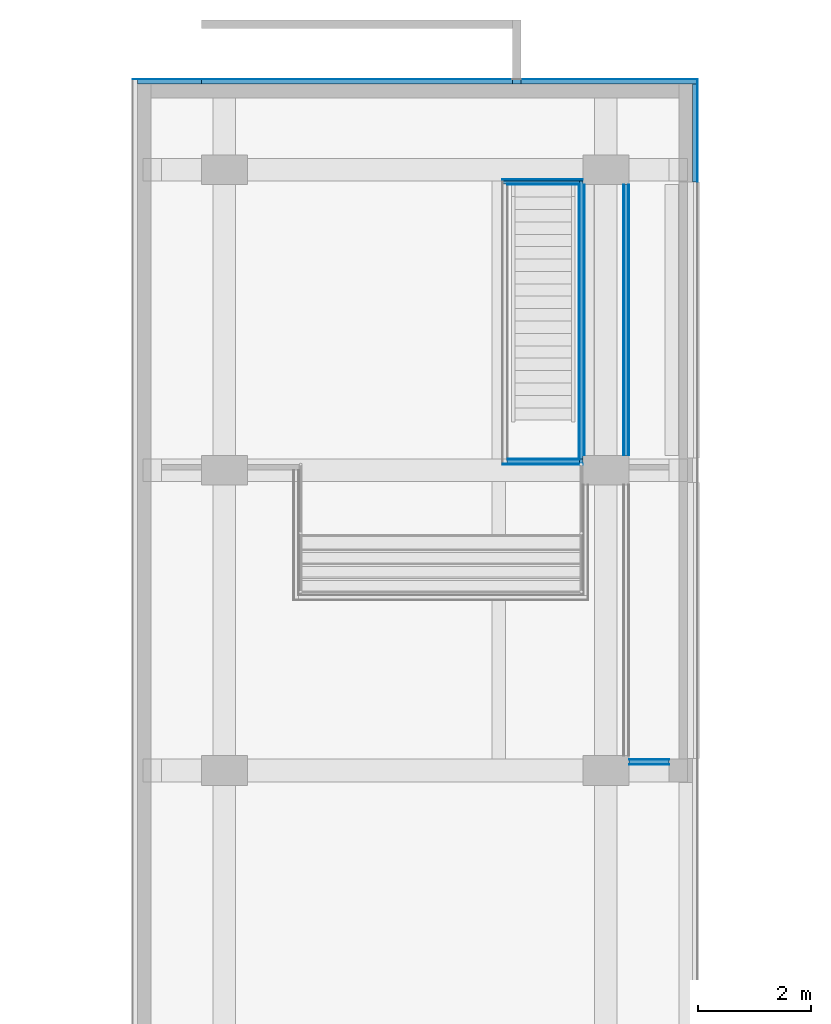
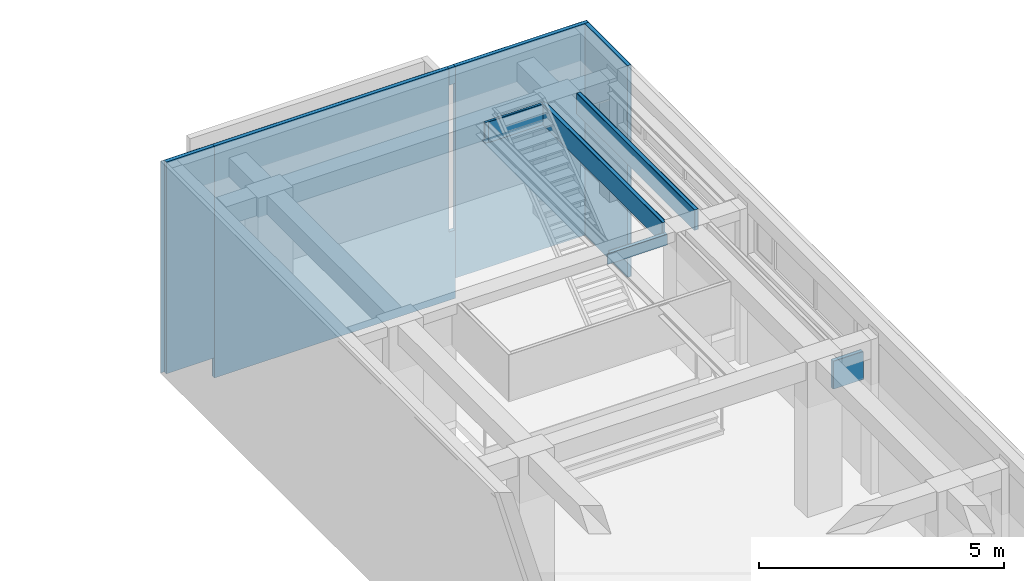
# One storey, part 114 of 135: 24 building element parts, 10 elements without a shape of their own.
"""IFC2X3 building model written with IfcOpenShell, lengths in millimetres."""

from ifc_helpers import new_model, entity, si_unit, converted_unit, derived_unit, money_unit, direction, frame, origin_with_axes, place, context, subcontext, project, spatial, faceted_brep, material, type_object, element, aggregate, save


model = new_model("IFC2X3")

# Units and contexts
model_context = context("Model", 3, precision=0.01, world=origin_with_axes(), true_north=direction((0.0, 1.0)))
body_context = subcontext(model_context, "Body", "Model", "MODEL_VIEW")
ifc_project = project(units=[si_unit("LENGTHUNIT", "METRE", prefix="MILLI"), si_unit("AREAUNIT", "SQUARE_METRE"), si_unit("VOLUMEUNIT", "CUBIC_METRE"), converted_unit("PLANEANGLEUNIT", "DEGREE", entity("IfcPlaneAngleMeasure", 0.0174532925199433), si_unit("PLANEANGLEUNIT", "RADIAN"), dimensions=[0, 0, 0, 0, 0, 0, 0]), money_unit("EUR"), converted_unit("TIMEUNIT", "Year", entity("IfcTimeMeasure", 31557600.0), si_unit("TIMEUNIT", "SECOND"), dimensions=[0, 0, 1, 0, 0, 0, 0]), si_unit("MASSUNIT", "GRAM", prefix="KILO"), si_unit("THERMODYNAMICTEMPERATUREUNIT", "DEGREE_CELSIUS"), si_unit("LUMINOUSINTENSITYUNIT", "LUMEN"), si_unit("ENERGYUNIT", "JOULE", prefix="MEGA"), derived_unit("THERMALCONDUCTANCEUNIT", [(si_unit("POWERUNIT", "WATT"), 1), (si_unit("LENGTHUNIT", "METRE"), -1), (si_unit("THERMODYNAMICTEMPERATUREUNIT", "KELVIN"), -1)]), derived_unit("SPECIFICHEATCAPACITYUNIT", [(si_unit("ENERGYUNIT", "JOULE"), 1), (si_unit("MASSUNIT", "GRAM", prefix="KILO"), -1), (si_unit("THERMODYNAMICTEMPERATUREUNIT", "KELVIN"), -1)]), derived_unit("MASSDENSITYUNIT", [(si_unit("MASSUNIT", "GRAM", prefix="KILO"), 1), (si_unit("VOLUMEUNIT", "CUBIC_METRE"), -1)])], contexts=[model_context])

# Site, building, storey
site_placement = place(None, origin_with_axes())
site = spatial("IfcSite", under=ifc_project, at=site_placement, Name="Site", CompositionType="ELEMENT")
building_placement = place(site_placement, origin_with_axes())
building = spatial("IfcBuilding", under=site, at=building_placement, Name="Naam gebouw", CompositionType="ELEMENT")
storey_placement = place(building_placement, origin_with_axes())
storey = spatial("IfcBuildingStorey", under=building, at=storey_placement, Name="Begane grond N", CompositionType="ELEMENT", Elevation=0.0)

# Wall, building element parts
wall_type_1 = type_object("IfcWallType", Name="Gevelstuc 90", PredefinedType="NOTDEFINED")
wall_1_placement = place(storey_placement, frame((21426.0, 56215.91242510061, -1700.0), z_axis=(0.0, 0.0, 1.0), x_axis=(1.0, 0.0, 0.0)))
wall_1 = element("IfcWall", 1, at=wall_1_placement, inside=storey, type_object=wall_type_1, Name="_Wand-x")
ifc_material_1 = material(Name="stucwerk")
building_element_part_1_placement = place(wall_1_placement, origin_with_axes())
building_element_part_1 = element("IfcBuildingElementPart", 2, at=building_element_part_1_placement, material=ifc_material_1, Name="stucwerk", context=body_context, shape_type="Brep", body=[
    faceted_brep([(5519.453814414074, -5.999983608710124, 1700.0), (5519.453814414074, -6.000000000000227, 0.0), (5519.453814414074, 0.0, 0.0), (5519.453814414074, 2.53319996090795e-05, 1700.0), (5519.453814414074, -8.940688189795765e-07, 5770.000000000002), (5519.453814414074, -6.000000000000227, 5770.000000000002), (0.0, -6.000000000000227, 5770.000000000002), (0.0, -6.000000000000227, 0.0), (0.0, 0.0, 0.0), (0.0, 0.0, 5770.000000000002)], [[[0, 1, 2, 3, 4, 5]], [[1, 0, 5, 6, 7]], [[2, 1, 7, 8]], [[3, 2, 8, 9, 4]], [[6, 5, 4, 9]], [[8, 7, 6, 9]]]),
])
ifc_material_2 = material(Name="Isolatie - Kunststof hard")
building_element_part_2_placement = place(wall_1_placement, origin_with_axes())
building_element_part_2 = element("IfcBuildingElementPart", 3, at=building_element_part_2_placement, material=ifc_material_2, Name="Isolatie - Kunststof hard", context=body_context, shape_type="Brep", body=[
    faceted_brep([(5519.453814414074, -5.999983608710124, 1700.0), (5669.453814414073, -5.999983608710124, 1700.0), (5669.453814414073, -6.000000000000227, 0.0), (0.0, -6.000000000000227, 0.0), (0.0, -6.000000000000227, 5770.000000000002), (5519.453814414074, -6.000000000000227, 5770.000000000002), (5669.453814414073, -90.00000000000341, 1700.0), (5519.453814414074, -90.00000000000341, 1700.0), (5669.453814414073, -89.9999999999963, 0.0), (0.0, -90.00000000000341, 0.0), (0.0, -89.9999999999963, 5770.000000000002), (5519.453814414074, -90.00000000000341, 5770.000000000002)], [[[0, 1, 2, 3, 4, 5]], [[6, 1, 0, 7]], [[1, 6, 8, 2]], [[2, 8, 9, 3]], [[9, 10, 4, 3]], [[11, 5, 4, 10]], [[7, 0, 5, 11]], [[7, 11, 10, 9, 8, 6]]]),
])
aggregate(wall_1, [building_element_part_1, building_element_part_2])

# Wall, building element part
wall_2_placement = place(storey_placement, frame((27095.45381441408, 56215.91242510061, -1200.0), z_axis=(0.0, 0.0, 1.0), x_axis=(1.0, 0.0, 0.0)))
wall_2 = element("IfcWall", 4, at=wall_2_placement, inside=storey, type_object=wall_type_1, Name="_Wand-x")
building_element_part_3_placement = place(wall_2_placement, origin_with_axes())
building_element_part_3 = element("IfcBuildingElementPart", 5, at=building_element_part_3_placement, material=ifc_material_1, Name="stucwerk", context=body_context, shape_type="Brep", body=[
    faceted_brep([(3140.546185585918, 0.0, 5270.000000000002), (0.0, 0.0, 5270.000000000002), (0.0, -6.000000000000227, 5270.000000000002), (3140.546185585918, -6.000000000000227, 5270.000000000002), (3140.546185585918, 0.0, 0.0), (0.0, 0.0, 0.0), (0.0, -6.000000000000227, 0.0), (3140.546185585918, -6.000000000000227, 0.0)], [[[0, 1, 2, 3]], [[4, 5, 1, 0]], [[2, 1, 5, 6]], [[3, 2, 6, 7]], [[3, 7, 4, 0]], [[7, 6, 5, 4]]]),
])

# Wall, building element parts
wall_3_placement = place(storey_placement, frame((20205.99999999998, 56215.91242510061, -1200.0), z_axis=(0.0, 0.0, 1.0), x_axis=(1.0, 0.0, 0.0)))
wall_3 = element("IfcWall", 6, at=wall_3_placement, inside=storey, type_object=wall_type_1, Name="_Wand-x")
building_element_part_4_placement = place(wall_3_placement, origin_with_axes())
building_element_part_4 = element("IfcBuildingElementPart", 7, at=building_element_part_4_placement, material=ifc_material_1, Name="stucwerk", context=body_context, shape_type="Brep", body=[
    faceted_brep([(1220.000000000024, -6.000000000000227, 5270.000000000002), (1220.000000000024, 0.0, 5270.000000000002), (6.000000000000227, 0.0, 5270.000000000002), (6.000000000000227, -6.000000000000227, 5270.000000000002), (1220.000000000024, -6.000000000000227, 0.0), (1220.000000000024, 0.0, 0.0), (6.000000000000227, 0.0, 0.0), (6.000000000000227, -6.000000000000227, 0.0)], [[[0, 1, 2, 3]], [[0, 4, 5, 1]], [[1, 5, 6, 2]], [[3, 2, 6, 7]], [[4, 0, 3, 7]], [[5, 4, 7, 6]]]),
])
building_element_part_5_placement = place(wall_3_placement, origin_with_axes())
building_element_part_5 = element("IfcBuildingElementPart", 8, at=building_element_part_5_placement, material=ifc_material_2, Name="Isolatie - Kunststof hard", context=body_context, shape_type="Brep", body=[
    faceted_brep([(1220.000000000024, -89.9999999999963, 5270.000000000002), (1220.000000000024, -6.000000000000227, 5270.000000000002), (89.99999999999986, -6.000000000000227, 5270.000000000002), (89.99999999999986, -89.9999999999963, 5270.000000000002), (1220.000000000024, -90.00000000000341, 0.0), (1220.000000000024, -6.000000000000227, 0.0), (89.99999999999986, -6.000000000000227, 0.0), (89.99999999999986, -90.00000000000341, 0.0)], [[[0, 1, 2, 3]], [[0, 4, 5, 1]], [[1, 5, 6, 2]], [[3, 2, 6, 7]], [[4, 0, 3, 7]], [[5, 4, 7, 6]]]),
])
aggregate(wall_3, [building_element_part_4, building_element_part_5])

# Building element part
building_element_part_6_placement = place(wall_2_placement, origin_with_axes())
building_element_part_6 = element("IfcBuildingElementPart", 9, at=building_element_part_6_placement, material=ifc_material_2, Name="Isolatie - Kunststof hard", context=body_context, shape_type="Brep", body=[
    faceted_brep([(3134.546185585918, -6.000000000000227, 5270.000000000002), (0.0, -6.000000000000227, 5270.000000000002), (0.0, -89.9999999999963, 5270.000000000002), (3134.546185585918, -89.9999999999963, 5270.000000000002), (3134.546185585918, -6.000000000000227, 0.0), (0.0, -6.000000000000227, 0.0), (0.0, -90.00000000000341, 0.0), (3134.546185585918, -89.9999999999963, 0.0)], [[[0, 1, 2, 3]], [[4, 5, 1, 0]], [[2, 1, 5, 6]], [[3, 2, 6, 7]], [[3, 7, 4, 0]], [[7, 6, 5, 4]]]),
])

aggregate(wall_2, [building_element_part_3, building_element_part_6])

# Wall, building element parts
wall_type_2 = type_object("IfcWallType", Name="Metalstud iso 100 100", PredefinedType="NOTDEFINED")
wall_4_placement = place(storey_placement, frame((28125.9999950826, 49475.9124251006, 3339.997968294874), z_axis=(0.0, 0.0, 1.0), x_axis=(0.0, 1.0, 0.0)))
wall_4 = element("IfcWall", 10, at=wall_4_placement, inside=storey, type_object=wall_type_2, Name="_Wand-x")
ifc_material_3 = material(Name="Isolatie - Steenwol LSW")
building_element_part_7_placement = place(wall_4_placement, origin_with_axes())
building_element_part_7 = element("IfcBuildingElementPart", 11, at=building_element_part_7_placement, material=ifc_material_3, Name="Isolatie - Steenwol LSW", context=body_context, shape_type="Brep", body=[
    faceted_brep([(0.0, -70.000004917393, 510.0020317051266), (62.5, -70.000004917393, 510.0020317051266), (62.5, -87.49999999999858, 510.0020317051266), (4867.499999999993, -87.49999999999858, 510.0020317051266), (4867.499999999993, -70.000004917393, 510.0020317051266), (4929.999999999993, -70.000004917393, 510.0020317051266), (4929.999999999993, -12.49999999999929, 510.0020317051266), (0.0, -12.49999999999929, 510.0020317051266), (0.0, -70.000004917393, 260.0020316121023), (-87.49999999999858, -70.000004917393, 260.0020316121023), (-87.49999999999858, -70.000004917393, 0.0), (62.5, -70.000004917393, 0.0), (62.5, -87.49999999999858, 0.0), (4867.499999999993, -87.49999999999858, 0.0), (4867.499999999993, -70.000004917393, 0.0), (4954.999999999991, -70.000004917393, 0.0), (4954.999999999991, -70.000004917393, 40.00000000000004), (4929.999999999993, -70.000004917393, 40.00000000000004), (4929.999999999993, -12.49999999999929, 40.00000000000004), (4954.999999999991, -12.49999999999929, 40.00000000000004), (4954.999999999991, -12.49999999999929, 0.0), (-87.49999999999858, -12.49999999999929, 0.0), (-87.49999999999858, -12.49999999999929, 260.0020316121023), (0.0, -12.49999999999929, 260.0020316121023)], [[[0, 1, 2, 3, 4, 5, 6, 7]], [[1, 0, 8, 9, 10, 11]], [[12, 2, 1, 11]], [[2, 12, 13, 3]], [[4, 3, 13, 14]], [[15, 16, 17, 5, 4, 14]], [[5, 17, 18, 6]], [[6, 18, 19, 20, 21, 22, 23, 7]], [[8, 0, 7, 23]], [[9, 8, 23, 22]], [[10, 9, 22, 21]], [[11, 10, 21, 20, 15, 14, 13, 12]], [[16, 15, 20, 19]], [[17, 16, 19, 18]]]),
])
ifc_material_4 = material(Name="Gipsplaat")
building_element_part_8_placement = place(wall_4_placement, origin_with_axes())
building_element_part_8 = element("IfcBuildingElementPart", 12, at=building_element_part_8_placement, material=ifc_material_4, Name="Gipsplaat", context=body_context, shape_type="Brep", body=[
    faceted_brep([(62.5, -87.49999999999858, 510.0020317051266), (62.5, -100.0000000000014, 510.0020317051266), (4867.499999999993, -100.0000000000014, 510.0020317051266), (4867.499999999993, -87.49999999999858, 510.0020317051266), (62.5, -100.0000000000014, 0.0), (62.5, -87.49999999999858, 0.0), (4867.499999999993, -100.0000000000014, 0.0), (4867.499999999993, -87.49999999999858, 0.0)], [[[0, 1, 2, 3]], [[4, 1, 0, 5]], [[1, 4, 6, 2]], [[3, 2, 6, 7]], [[5, 0, 3, 7]], [[4, 5, 7, 6]]]),
])
building_element_part_9_placement = place(wall_4_placement, origin_with_axes())
building_element_part_9 = element("IfcBuildingElementPart", 13, at=building_element_part_9_placement, material=ifc_material_4, Name="Gipsplaat", context=body_context, shape_type="Brep", body=[
    faceted_brep([(0.0, 0.0, 510.0020317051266), (0.0, -12.49999999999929, 510.0020317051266), (4879.999999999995, -12.49999999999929, 510.0020317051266), (4879.999999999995, 0.0, 510.0020317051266), (0.0, -12.49999999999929, 260.0020316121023), (0.0, 0.0, 260.0020316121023), (-12.50000000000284, -12.49999999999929, 260.0020316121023), (-12.50000000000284, -12.49999999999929, 0.0), (4879.999999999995, -12.49999999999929, 0.0), (4879.999999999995, 0.0, 0.0), (-12.50000000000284, 0.0, 0.0), (-12.50000000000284, 0.0, 260.0020316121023)], [[[0, 1, 2, 3]], [[4, 1, 0, 5]], [[4, 6, 7, 8, 2, 1]], [[9, 3, 2, 8]], [[5, 0, 3, 9, 10, 11]], [[6, 4, 5, 11]], [[6, 11, 10, 7]], [[10, 9, 8, 7]]]),
])
aggregate(wall_4, [building_element_part_7, building_element_part_8, building_element_part_9])

# Wall, building element part
wall_5_placement = place(storey_placement, frame((26945.45381441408, 56215.91242510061, 3650.0), z_axis=(0.0, 0.0, 1.0), x_axis=(1.0, 0.0, 0.0)))
wall_5 = element("IfcWall", 14, at=wall_5_placement, inside=storey, type_object=wall_type_1, Name="_Wand-x")
building_element_part_10_placement = place(wall_5_placement, origin_with_axes())
building_element_part_10 = element("IfcBuildingElementPart", 15, at=building_element_part_10_placement, material=ifc_material_2, Name="Isolatie - Kunststof hard", context=body_context, shape_type="Brep", body=[
    faceted_brep([(149.9999999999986, -90.00000000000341, 420.0000000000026), (149.9999999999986, -6.000000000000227, 420.0000000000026), (0.0, -6.000000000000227, 420.0000000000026), (0.0, -90.00000000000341, 420.0000000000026), (149.9999999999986, -90.00000000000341, 0.0), (149.9999999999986, -6.000000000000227, 0.0), (0.0, -6.000000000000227, 0.0), (0.0, -90.00000000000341, 0.0)], [[[0, 1, 2, 3]], [[0, 4, 5, 1]], [[1, 5, 6, 2]], [[3, 2, 6, 7]], [[4, 0, 3, 7]], [[5, 4, 7, 6]]]),
])
aggregate(wall_5, [building_element_part_10])

# Wall, building element parts
wall_6_placement = place(storey_placement, frame((30235.99999999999, 56215.91242510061, -1200.0), z_axis=(0.0, 0.0, 1.0), x_axis=(0.0, -1.0, 0.0)))
wall_6 = element("IfcWall", 16, at=wall_6_placement, inside=storey, type_object=wall_type_1, Name="_Wand-x")
building_element_part_11_placement = place(wall_6_placement, origin_with_axes())
building_element_part_11 = element("IfcBuildingElementPart", 17, at=building_element_part_11_placement, material=ifc_material_1, Name="stucwerk", context=body_context, shape_type="Brep", body=[
    faceted_brep([(6.000000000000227, -6.000000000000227, 5270.000000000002), (1825.000000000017, -6.000000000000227, 5270.000000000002), (1825.000000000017, 0.0, 5270.000000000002), (6.000000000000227, 0.0, 5270.000000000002), (6.000000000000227, -6.000000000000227, 0.0), (1825.000000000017, -6.000000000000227, 0.0), (1825.000000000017, 0.0, 0.0), (6.000000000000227, 0.0, 0.0)], [[[0, 1, 2, 3]], [[4, 5, 1, 0]], [[2, 1, 5, 6]], [[3, 2, 6, 7]], [[4, 0, 3, 7]], [[7, 6, 5, 4]]]),
])
building_element_part_12_placement = place(wall_6_placement, origin_with_axes())
building_element_part_12 = element("IfcBuildingElementPart", 18, at=building_element_part_12_placement, material=ifc_material_2, Name="Isolatie - Kunststof hard", context=body_context, shape_type="Brep", body=[
    faceted_brep([(90.00000000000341, -89.99999999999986, 5270.000000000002), (1825.000000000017, -89.99999999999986, 5270.000000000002), (1825.000000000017, -6.000000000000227, 5270.000000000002), (90.00000000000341, -6.000000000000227, 5270.000000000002), (90.00000000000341, -89.99999999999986, 0.0), (1825.000000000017, -89.99999999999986, 0.0), (1825.000000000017, -6.000000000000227, 0.0), (90.00000000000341, -6.000000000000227, 0.0)], [[[0, 1, 2, 3]], [[4, 5, 1, 0]], [[2, 1, 5, 6]], [[3, 2, 6, 7]], [[4, 0, 3, 7]], [[7, 6, 5, 4]]]),
])
aggregate(wall_6, [building_element_part_11, building_element_part_12])

wall_7_placement = place(storey_placement, frame((26865.99999999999, 49475.9124251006, 3339.997968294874), z_axis=(0.0, 0.0, 1.0), x_axis=(1.0, 0.0, 0.0)))
wall_7 = element("IfcWall", 19, at=wall_7_placement, inside=storey, type_object=wall_type_2, Name="_Wand-x")
building_element_part_13_placement = place(wall_7_placement, origin_with_axes())
building_element_part_13 = element("IfcBuildingElementPart", 20, at=building_element_part_13_placement, material=ifc_material_4, Name="Gipsplaat", context=body_context, shape_type="Brep", body=[
    faceted_brep([(0.0, 0.0, 260.0020316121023), (1259.999995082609, 0.0, 260.0020316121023), (1259.999995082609, 0.0, 0.0), (0.0, 0.0, 0.0), (1259.999995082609, -12.50000000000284, 260.0020316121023), (0.0, -12.50000000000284, 260.0020316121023), (1259.999995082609, -12.50000000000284, 0.0), (0.0, -12.50000000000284, 0.0)], [[[0, 1, 2, 3]], [[4, 1, 0, 5]], [[1, 4, 6, 2]], [[3, 2, 6, 7]], [[5, 0, 3, 7]], [[4, 5, 7, 6]]]),
])
building_element_part_14_placement = place(wall_7_placement, origin_with_axes())
building_element_part_14 = element("IfcBuildingElementPart", 21, at=building_element_part_14_placement, material=ifc_material_3, Name="Isolatie - Steenwol LSW", context=body_context, shape_type="Brep", body=[
    faceted_brep([(-12.49999999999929, -12.50000000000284, 260.0020316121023), (1272.499995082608, -12.50000000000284, 260.0020316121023), (1272.499995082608, -12.50000000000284, 0.0), (-12.49999999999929, -12.50000000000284, 0.0), (1272.499995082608, -87.49999999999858, 260.0020316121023), (-12.49999999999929, -87.49999999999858, 260.0020316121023), (1272.499995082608, -87.49999999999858, 0.0), (-12.49999999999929, -87.49999999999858, 0.0)], [[[0, 1, 2, 3]], [[4, 1, 0, 5]], [[1, 4, 6, 2]], [[3, 2, 6, 7]], [[5, 0, 3, 7]], [[4, 5, 7, 6]]]),
])
building_element_part_15_placement = place(wall_7_placement, origin_with_axes())
building_element_part_15 = element("IfcBuildingElementPart", 22, at=building_element_part_15_placement, material=ifc_material_4, Name="Gipsplaat", context=body_context, shape_type="Brep", body=[
    faceted_brep([(1330.000000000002, -100.0000000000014, 260.0020316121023), (1330.000000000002, -87.49999999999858, 260.0020316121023), (-87.49999999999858, -87.49999999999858, 260.0020316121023), (-87.49999999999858, -100.0000000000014, 260.0020316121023), (1330.000000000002, -87.49999999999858, 0.0), (1330.000000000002, -100.0000000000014, 0.0), (-87.49999999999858, -87.49999999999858, 0.0), (-87.49999999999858, -100.0000000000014, 0.0)], [[[0, 1, 2, 3]], [[4, 1, 0, 5]], [[1, 4, 6, 2]], [[7, 3, 2, 6]], [[5, 0, 3, 7]], [[4, 5, 7, 6]]]),
])
aggregate(wall_7, [building_element_part_13, building_element_part_14, building_element_part_15])

wall_8_placement = place(storey_placement, frame((29015.9999729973, 49475.9124251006, 3339.997968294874), z_axis=(0.0, 0.0, 1.0), x_axis=(0.0, 1.0, 0.0)))
wall_8 = element("IfcWall", 23, at=wall_8_placement, inside=storey, type_object=wall_type_2, Name="_Wand-x")
building_element_part_16_placement = place(wall_8_placement, origin_with_axes())
building_element_part_16 = element("IfcBuildingElementPart", 24, at=building_element_part_16_placement, material=ifc_material_4, Name="Gipsplaat", context=body_context, shape_type="Brep", body=[
    faceted_brep([(62.5, 100.0000000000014, 510.0020317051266), (62.5, 87.49999999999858, 510.0020317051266), (4867.499999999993, 87.49999999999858, 510.0020317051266), (4867.499999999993, 100.0000000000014, 510.0020317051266), (62.5, 87.49999999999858, 0.0), (62.5, 100.0000000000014, 0.0), (4867.499999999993, 87.49999999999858, 0.0), (4867.499999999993, 100.0000000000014, 0.0)], [[[0, 1, 2, 3]], [[4, 1, 0, 5]], [[1, 4, 6, 2]], [[7, 3, 2, 6]], [[5, 0, 3, 7]], [[4, 5, 7, 6]]]),
])
building_element_part_17_placement = place(wall_8_placement, origin_with_axes())
building_element_part_17 = element("IfcBuildingElementPart", 25, at=building_element_part_17_placement, material=ifc_material_3, Name="Isolatie - Steenwol LSW", context=body_context, shape_type="Brep", body=[
    faceted_brep([(62.5, 87.49999999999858, 510.0020317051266), (62.5, 12.49999999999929, 510.0020317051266), (4867.499999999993, 12.49999999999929, 510.0020317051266), (4867.499999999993, 87.49999999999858, 510.0020317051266), (62.5, 12.49999999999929, 0.0), (62.5, 87.49999999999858, 0.0), (4867.499999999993, 12.49999999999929, 0.0), (4867.499999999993, 87.49999999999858, 0.0)], [[[0, 1, 2, 3]], [[4, 1, 0, 5]], [[1, 4, 6, 2]], [[7, 3, 2, 6]], [[5, 0, 3, 7]], [[4, 5, 7, 6]]]),
])
building_element_part_18_placement = place(wall_8_placement, origin_with_axes())
building_element_part_18 = element("IfcBuildingElementPart", 26, at=building_element_part_18_placement, material=ifc_material_4, Name="Gipsplaat", context=body_context, shape_type="Brep", body=[
    faceted_brep([(62.5, 12.49999999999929, 510.0020317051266), (62.5, -2.700269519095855e-05, 510.0020317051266), (4867.499999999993, 0.0, 510.0020317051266), (4867.499999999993, 12.49999999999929, 510.0020317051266), (62.5, -2.700269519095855e-05, 0.0), (62.5, 12.49999999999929, 0.0), (4867.499999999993, 0.0, 0.0), (4867.499999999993, 12.49999999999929, 0.0)], [[[0, 1, 2, 3]], [[4, 1, 0, 5]], [[1, 4, 6, 2]], [[7, 3, 2, 6]], [[5, 0, 3, 7]], [[4, 5, 7, 6]]]),
])
aggregate(wall_8, [building_element_part_16, building_element_part_17, building_element_part_18])

wall_9_placement = place(storey_placement, frame((28125.9999950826, 54343.41242510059, 3339.997968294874), z_axis=(0.0, 0.0, 1.0), x_axis=(-1.0, 0.0, 0.0)))
wall_9 = element("IfcWall", 27, at=wall_9_placement, inside=storey, type_object=wall_type_2, Name="_Wand-x")
building_element_part_19_placement = place(wall_9_placement, origin_with_axes())
building_element_part_19 = element("IfcBuildingElementPart", 28, at=building_element_part_19_placement, material=ifc_material_3, Name="Isolatie - Steenwol LSW", context=body_context, shape_type="Brep", body=[
    faceted_brep([(1347.499995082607, -87.49999999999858, 40.00000000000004), (-12.49999999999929, -87.49999999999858, 40.00000000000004), (-12.49999999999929, -87.49999999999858, 0.0), (1347.499995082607, -87.49999999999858, 0.0), (-12.49999999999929, -62.5, 40.00000000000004), (1347.499995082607, -62.5, 40.00000000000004), (-12.49999999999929, -62.5, 510.0020317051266), (-12.49999999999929, -12.50000000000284, 510.0020317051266), (-12.49999999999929, -12.50000000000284, 0.0), (1347.499995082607, -12.50000000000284, 0.0), (1347.499995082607, -12.50000000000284, 510.0020317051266), (1347.499995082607, -62.5, 510.0020317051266)], [[[0, 1, 2, 3]], [[4, 1, 0, 5]], [[4, 6, 7, 8, 2, 1]], [[8, 9, 3, 2]], [[5, 0, 3, 9, 10, 11]], [[11, 6, 4, 5]], [[6, 11, 10, 7]], [[8, 7, 10, 9]]]),
])
building_element_part_20_placement = place(wall_9_placement, origin_with_axes())
building_element_part_20 = element("IfcBuildingElementPart", 29, at=building_element_part_20_placement, material=ifc_material_4, Name="Gipsplaat", context=body_context, shape_type="Brep", body=[
    faceted_brep([(-70.000004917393, -87.49999999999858, 40.00000000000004), (-70.000004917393, -100.0000000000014, 40.00000000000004), (1359.99999508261, -100.0000000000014, 40.00000000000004), (1359.99999508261, -87.49999999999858, 40.00000000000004), (-70.000004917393, -100.0000000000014, 0.0), (-70.000004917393, -87.49999999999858, 0.0), (1359.99999508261, -100.0000000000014, 0.0), (1359.99999508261, -87.49999999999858, 0.0)], [[[0, 1, 2, 3]], [[4, 1, 0, 5]], [[1, 4, 6, 2]], [[7, 3, 2, 6]], [[5, 0, 3, 7]], [[4, 5, 7, 6]]]),
])
building_element_part_21_placement = place(wall_9_placement, origin_with_axes())
building_element_part_21 = element("IfcBuildingElementPart", 30, at=building_element_part_21_placement, material=ifc_material_4, Name="Gipsplaat", context=body_context, shape_type="Brep", body=[
    faceted_brep([(1272.499995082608, -12.50000000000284, 510.0020317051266), (0.0, -12.50000000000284, 510.0020317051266), (0.0, -12.50000000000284, 0.0), (1272.499995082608, -12.50000000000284, 0.0), (0.0, 0.0, 510.0020317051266), (1272.499995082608, 0.0, 510.0020317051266), (1259.999995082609, 0.0, 510.0020317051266), (0.0, 0.0, 0.0), (1272.499995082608, 0.0, 0.0)], [[[0, 1, 2, 3]], [[4, 1, 0, 5, 6]], [[1, 4, 7, 2]], [[8, 3, 2, 7]], [[5, 0, 3, 8]], [[6, 5, 8, 7, 4]]]),
])
aggregate(wall_9, [building_element_part_19, building_element_part_20, building_element_part_21])

wall_10_placement = place(storey_placement, frame((29015.99992027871, 44145.91242510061, 2689.99832424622), z_axis=(0.0, 0.0, 1.0), x_axis=(1.0, 0.0, 0.0)))
wall_10 = element("IfcWall", 31, at=wall_10_placement, inside=storey, type_object=wall_type_2, Name="_Wand-x")
building_element_part_22_placement = place(wall_10_placement, origin_with_axes())
building_element_part_22 = element("IfcBuildingElementPart", 32, at=building_element_part_22_placement, material=ifc_material_4, Name="Gipsplaat", context=body_context, shape_type="Brep", body=[
    faceted_brep([(0.0, 0.0, 0.0), (0.0, 0.0, 690.0003212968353), (710.0000797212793, 0.0, 690.0003212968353), (710.0000797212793, 0.0, 0.0), (0.0, -12.50000000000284, 0.0), (0.0, -12.50000000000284, 690.0003212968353), (710.0000797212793, -12.50000000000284, 690.0003212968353), (710.0000797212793, -12.50000000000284, 0.0)], [[[0, 1, 2, 3]], [[4, 5, 1, 0]], [[5, 6, 2, 1]], [[3, 2, 6, 7]], [[7, 4, 0, 3]], [[7, 6, 5, 4]]]),
])
building_element_part_23_placement = place(wall_10_placement, origin_with_axes())
building_element_part_23 = element("IfcBuildingElementPart", 33, at=building_element_part_23_placement, material=ifc_material_3, Name="Isolatie - Steenwol LSW", context=body_context, shape_type="Brep", body=[
    faceted_brep([(0.0, -12.50000000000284, 0.0), (0.0, -12.50000000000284, 690.0003212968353), (710.0000797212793, -12.50000000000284, 690.0003212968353), (710.0000797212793, -12.50000000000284, 0.0), (0.0, -87.49999999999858, 0.0), (0.0, -87.49999999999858, 690.0003212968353), (710.0000797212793, -87.49999999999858, 690.0003212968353), (710.0000797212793, -87.49999999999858, 0.0)], [[[0, 1, 2, 3]], [[4, 5, 1, 0]], [[5, 6, 2, 1]], [[3, 2, 6, 7]], [[7, 4, 0, 3]], [[7, 6, 5, 4]]]),
])
building_element_part_24_placement = place(wall_10_placement, origin_with_axes())
building_element_part_24 = element("IfcBuildingElementPart", 34, at=building_element_part_24_placement, material=ifc_material_4, Name="Gipsplaat", context=body_context, shape_type="Brep", body=[
    faceted_brep([(0.0, -87.49999999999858, 0.0), (0.0, -87.49999999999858, 690.0003212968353), (710.0000797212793, -87.49999999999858, 690.0003212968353), (710.0000797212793, -87.49999999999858, 0.0), (0.0, -100.0000000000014, 0.0), (0.0, -100.0000000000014, 690.0003212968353), (710.0000797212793, -100.0000000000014, 690.0003212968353), (710.0000797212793, -100.0000000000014, 0.0)], [[[0, 1, 2, 3]], [[4, 5, 1, 0]], [[5, 6, 2, 1]], [[3, 2, 6, 7]], [[7, 4, 0, 3]], [[7, 6, 5, 4]]]),
])
aggregate(wall_10, [building_element_part_22, building_element_part_23, building_element_part_24])

save(model, "model.ifc")
